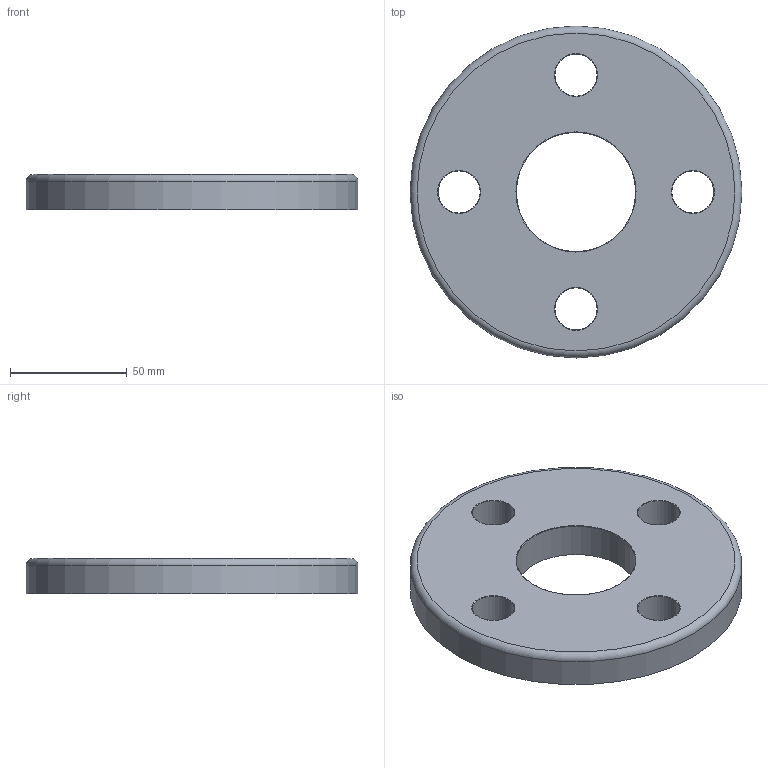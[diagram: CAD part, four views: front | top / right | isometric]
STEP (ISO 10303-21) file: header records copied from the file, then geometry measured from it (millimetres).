
FILE_DESCRIPTION(/* description */ ('PVC-U flangia libera BS 4504 DIN 8063 / PVC-U backing ring drilled to BS 4504 DIN 8063'),/* implementation_level */ '2;1');
FILE_NAME(/* name */ 'C:\Users\POLYPIPE\Desktop\DATASET INVENTOR\LIBRERIA EFFAST\RACCORDI 3DxWEB\RDR\3D_RDRFLD\3D_RDRFLD0400.stp',/* time_stamp */ '2018-01-19T14:22:02+01:00',/* author */ ('POLYPIPE'),/* organization */ ('Polypipe Italia s.r.l.'),/* preprocessor_version */ 'ST-DEVELOPER v16.1',/* originating_system */ 'Autodesk Inventor 2016',/* authorisation */ '');
FILE_SCHEMA (('CONFIG_CONTROL_DESIGN'));
Length unit declared in the file: millimetre
Products named in the file (1): 3D_RDRFLD
Bounding box: 142 x 142 x 15 mm (x, y, z)
Volume: 190784.3 mm3; surface area: 37428.5 mm2
Topology: 1 solids, 1 shells, 14 faces, 30 edges, 18 vertices
Faces by surface type: torus 6, cylinder 6, plane 2
Full cylindrical faces by diameter (mm): 18 x4, 51 x1, 142 x1
Entity records: 368 total; most frequent: DIRECTION 66, CARTESIAN_POINT 51, EDGE_LOOP 36, ORIENTED_EDGE 36, AXIS2_PLACEMENT_3D 33, FACE_BOUND 22, CIRCLE 18, VERTEX_POINT 18
